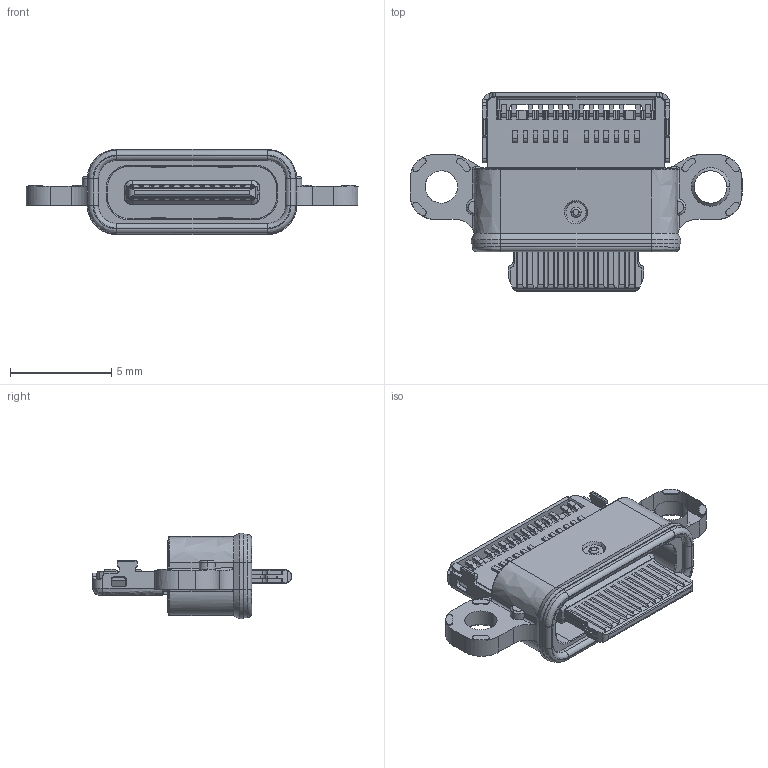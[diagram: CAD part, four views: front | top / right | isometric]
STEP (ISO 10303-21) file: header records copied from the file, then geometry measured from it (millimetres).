
FILE_DESCRIPTION (( 'STEP AP214' ), '1' );
FILE_NAME ('U5307-24PNMW9.8LF.STEP', '2026-05-28T07:46:53', ( '' ), ( '' ), 'SwSTEP 2.0', 'SolidWorks 2024', '' );
FILE_SCHEMA (( 'AUTOMOTIVE_DESIGN' ));
Length unit declared in the file: millimetre
Products named in the file (1): U5307-24PNMW9.8LF
Bounding box: 16.4 x 9.8 x 4.21 mm (x, y, z)
Volume: 176.3 mm3; surface area: 484.3 mm2
Topology: 3 solids, 3 shells, 849 faces, 2333 edges, 1508 vertices
Faces by surface type: bspline 849
Entity records: 28049 total; most frequent: CARTESIAN_POINT 14233, ORIENTED_EDGE 4662, EDGE_CURVE 2331, B_SPLINE_CURVE_WITH_KNOTS 2100, VERTEX_POINT 1508, EDGE_LOOP 883, FACE_OUTER_BOUND 849, ADVANCED_FACE 849
